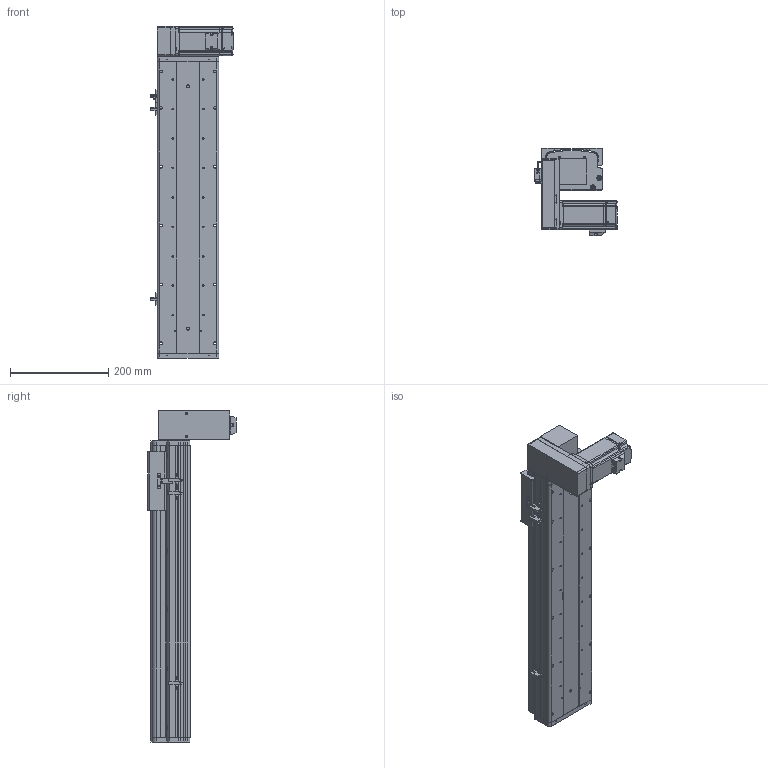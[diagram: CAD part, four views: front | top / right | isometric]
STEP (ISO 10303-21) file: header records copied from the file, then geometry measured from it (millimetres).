
FILE_DESCRIPTION (( 'STEP AP214' ), '1' );
FILE_NAME ('KSD125B-S400-MRD-CM.STEP', '2017-10-21T06:01:56', ( '微软用户' ), ( '微软中国' ), 'SwSTEP 2.0', 'SolidWorks 2014', '' );
FILE_SCHEMA (( 'AUTOMOTIVE_DESIGN' ));
Length unit declared in the file: millimetre
Products named in the file (17): 悵誘欶奻狟殏; MHMD042G1CA_2_03; HTPA30S3M150_A_H6_a佪裝蚚; HTPA30S3M150_A_H6_a萇儂蚚; 100宽马达安装板连板上下折丝杆同步带; KSD125模组400行程同步带-防尘盖; 125模组400行程同步带-底板; KSD125模组同步带-防撞垫2; 覜茼え68遵圉猾敕; U倰嫖萇假蚾璃; U倰嫖萇EEㄜSX672; KSD125模组同步带-防撞垫1; 100宽马达安装板同步带右; 前端板-125宽模组同步带; 125模组同步带-尾端板1; KSD125模组同步带-滑动座1; KSD125B-S400-MRD-CM
Assembly tree (20 placements, depth 2):
  KSD125B-S400-MRD-CM
    KSD125模组同步带-滑动座1
    125模组同步带-尾端板1
    前端板-125宽模组同步带
    100宽马达安装板同步带右
    KSD125模组同步带-防撞垫1
    U倰嫖萇EEㄜSX672  x3
    U倰嫖萇假蚾璃  x3
    覜茼え68遵圉猾敕
    KSD125模组同步带-防撞垫2
    125模组400行程同步带-底板
    KSD125模组400行程同步带-防尘盖
    100宽马达安装板连板上下折丝杆同步带
    HTPA30S3M150_A_H6_a萇儂蚚
    HTPA30S3M150_A_H6_a佪裝蚚
    MHMD042G1CA_2_03
    悵誘欶奻狟殏
Bounding box: 168.7 x 179.5 x 677 mm (x, y, z)
Volume: 2322716.4 mm3; surface area: 816757.1 mm2
Topology: 19 solids, 22 shells, 2231 faces, 6457 edges, 4266 vertices
Faces by surface type: cylinder 1384, plane 720, cone 105, bspline 22
Entity records: 78959 total; most frequent: CARTESIAN_POINT 15639, DIRECTION 12286, ORIENTED_EDGE 11434, EDGE_CURVE 5795, AXIS2_PLACEMENT_3D 4737, VERTEX_POINT 3858, VECTOR 2812, LINE 2812
